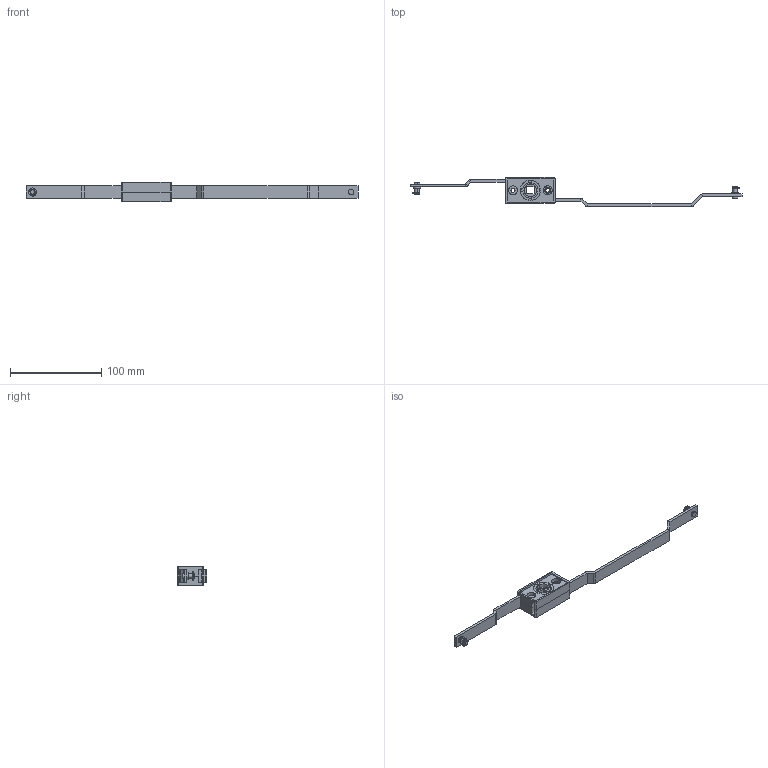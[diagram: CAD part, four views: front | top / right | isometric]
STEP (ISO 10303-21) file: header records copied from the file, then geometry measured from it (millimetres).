
FILE_DESCRIPTION (( 'STEP AP203' ), '1' );
FILE_NAME ('MZ2.STEP', '2008-03-06T15:50:26', ( '£ukaszC' ), ( '' ), 'SwSTEP 2.0', 'SolidWorks 2004231', '' );
FILE_SCHEMA (( 'CONFIG_CONTROL_DESIGN' ));
Length unit declared in the file: millimetre
Products named in the file (7): 1C.MZ2.04.01.00_Domyœlna; MZ2; 1C.MZ2.03.01.00_Domyœlna; 1C.MZ1.02.00.00; 1C.MZ1.01.00.00_frezowanie fi22; Zabezpieczenie_Domyœlna; 1C.MZ1.05.02.00_Domyœlna
Assembly tree (9 placements, depth 2):
  MZ2
    Zabezpieczenie_Domyœlna  x2
    1C.MZ1.01.00.00_frezowanie fi22  x2
    1C.MZ1.05.02.00_Domyœlna  x2
    1C.MZ1.02.00.00
    1C.MZ2.04.01.00_Domyœlna
    1C.MZ2.03.01.00_Domyœlna
Bounding box: 363.45 x 32.15 x 21.4 mm (x, y, z)
Volume: 30439.1 mm3; surface area: 30664.7 mm2
Topology: 9 solids, 9 shells, 480 faces, 1305 edges, 851 vertices
Faces by surface type: plane 266, cylinder 140, cone 38, bspline 36
Entity records: 11513 total; most frequent: CARTESIAN_POINT 2313, ORIENTED_EDGE 1786, DIRECTION 1722, EDGE_CURVE 893, AXIS2_PLACEMENT_3D 578, VERTEX_POINT 577, VECTOR 566, LINE 566
